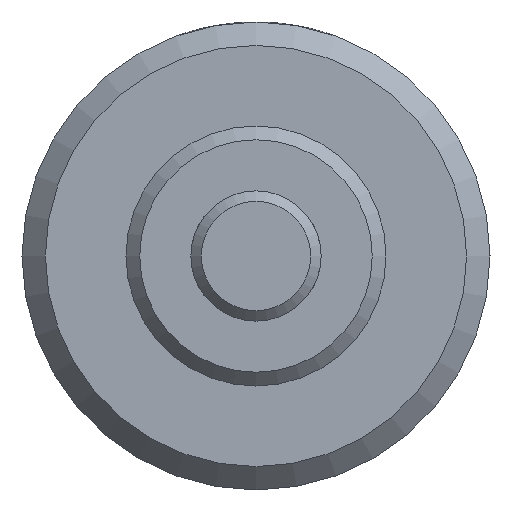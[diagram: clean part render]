
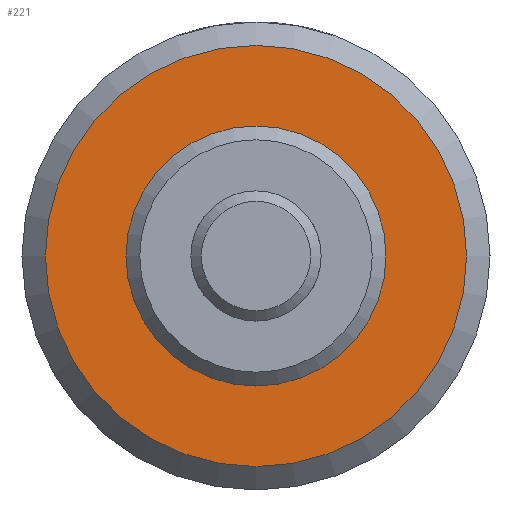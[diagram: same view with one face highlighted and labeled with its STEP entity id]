
A CAD part, left-side view. The second image highlights one B-rep face of the part: STEP entity #221.
In plain terms, the highlighted planar face has unit normal (-1, 0, 0).
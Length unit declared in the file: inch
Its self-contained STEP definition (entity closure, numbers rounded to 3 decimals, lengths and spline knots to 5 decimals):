
#221 = ADVANCED_FACE( '', ( #457, #458 ), #459, .F. );
#457 = FACE_OUTER_BOUND( '', #705, .T. );
#458 = FACE_BOUND( '', #706, .T. );
#459 = PLANE( '', #707 );
#705 = EDGE_LOOP( '', ( #1110 ) );
#706 = EDGE_LOOP( '', ( #1111 ) );
#707 = AXIS2_PLACEMENT_3D( '', #1112, #1113, #1114 );
#1110 = ORIENTED_EDGE( '', *, *, #1328, .F. );
#1111 = ORIENTED_EDGE( '', *, *, #1269, .T. );
#1112 = CARTESIAN_POINT( '', ( 0.5, 0.312, 0. ) );
#1113 = DIRECTION( '', ( 1., 0., 0. ) );
#1114 = DIRECTION( '', ( 0., 0., -1. ) );
#1269 = EDGE_CURVE( '', #1453, #1453, #1454, .T. );
#1328 = EDGE_CURVE( '', #1551, #1551, #1552, .T. );
#1453 = VERTEX_POINT( '', #1734 );
#1454 = CIRCLE( '', #1735, 0.312 );
#1551 = VERTEX_POINT( '', #1974 );
#1552 = CIRCLE( '', #1975, 0.50625 );
#1734 = CARTESIAN_POINT( '', ( 0.5, 0., -0.312 ) );
#1735 = AXIS2_PLACEMENT_3D( '', #2164, #2165, #2166 );
#1974 = CARTESIAN_POINT( '', ( 0.5, 0., -0.50625 ) );
#1975 = AXIS2_PLACEMENT_3D( '', #2241, #2242, #2243 );
#2164 = CARTESIAN_POINT( '', ( 0.5, 0., 0. ) );
#2165 = DIRECTION( '', ( 1., 0., 0. ) );
#2166 = DIRECTION( '', ( 0., 0., -1. ) );
#2241 = CARTESIAN_POINT( '', ( 0.5, 0., 0. ) );
#2242 = DIRECTION( '', ( 1., 0., 0. ) );
#2243 = DIRECTION( '', ( 0., 0., -1. ) );
